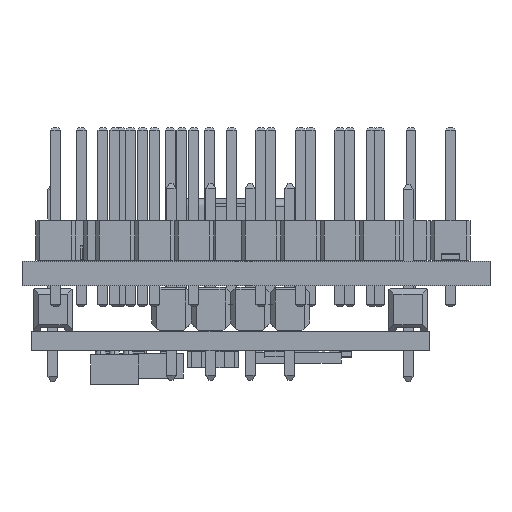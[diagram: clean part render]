
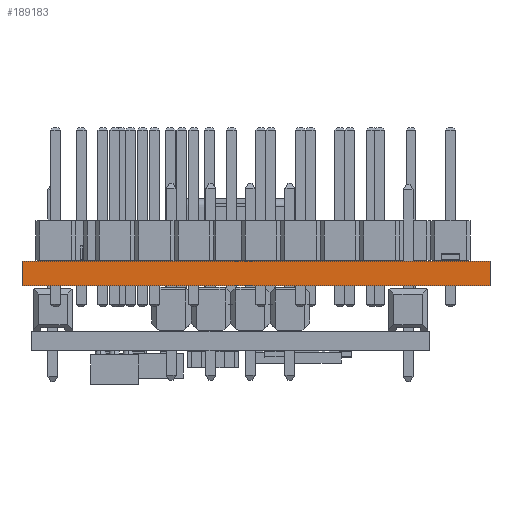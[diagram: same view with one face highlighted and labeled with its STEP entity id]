
A CAD part, front view. The second image highlights one B-rep face of the part: STEP entity #189183.
In plain terms, the highlighted planar face has unit normal (0, -1, 0).
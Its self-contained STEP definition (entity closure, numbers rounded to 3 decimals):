
#184989 = PLANE('',#184990);
#184990 = AXIS2_PLACEMENT_3D('',#184991,#184992,#184993);
#184991 = CARTESIAN_POINT('',(25.908,-72.263,0.));
#184992 = DIRECTION('',(-1.,0.,0.));
#184993 = DIRECTION('',(0.,1.,0.));
#185017 = PLANE('',#185018);
#185018 = AXIS2_PLACEMENT_3D('',#185019,#185020,#185021);
#185019 = CARTESIAN_POINT('',(40.958,-47.752,1.6));
#185020 = DIRECTION('',(-0.,-0.,-1.));
#185021 = DIRECTION('',(-1.,0.,0.));
#185045 = PLANE('',#185046);
#185046 = AXIS2_PLACEMENT_3D('',#185047,#185048,#185049);
#185047 = CARTESIAN_POINT('',(56.007,-23.241,0.));
#185048 = DIRECTION('',(1.,0.,-0.));
#185049 = DIRECTION('',(0.,-1.,0.));
#185071 = PLANE('',#185072);
#185072 = AXIS2_PLACEMENT_3D('',#185073,#185074,#185075);
#185073 = CARTESIAN_POINT('',(40.958,-47.752,0.));
#185074 = DIRECTION('',(-0.,-0.,-1.));
#185075 = DIRECTION('',(-1.,0.,0.));
#185086 = EDGE_CURVE('',#185087,#185089,#185091,.T.);
#185087 = VERTEX_POINT('',#185088);
#185088 = CARTESIAN_POINT('',(25.908,-72.263,0.));
#185089 = VERTEX_POINT('',#185090);
#185090 = CARTESIAN_POINT('',(25.908,-72.263,1.6));
#185091 = SURFACE_CURVE('',#185092,(#185096,#185103),.PCURVE_S1.);
#185092 = LINE('',#185093,#185094);
#185093 = CARTESIAN_POINT('',(25.908,-72.263,0.));
#185094 = VECTOR('',#185095,1.);
#185095 = DIRECTION('',(0.,0.,1.));
#185096 = PCURVE('',#184989,#185097);
#185097 = DEFINITIONAL_REPRESENTATION('',(#185098),#185102);
#185098 = LINE('',#185099,#185100);
#185099 = CARTESIAN_POINT('',(0.,0.));
#185100 = VECTOR('',#185101,1.);
#185101 = DIRECTION('',(0.,-1.));
#185102 = ( GEOMETRIC_REPRESENTATION_CONTEXT(2) 
PARAMETRIC_REPRESENTATION_CONTEXT() REPRESENTATION_CONTEXT('2D SPACE',''
  ) );
#185103 = PCURVE('',#185104,#185109);
#185104 = PLANE('',#185105);
#185105 = AXIS2_PLACEMENT_3D('',#185106,#185107,#185108);
#185106 = CARTESIAN_POINT('',(56.007,-72.263,0.));
#185107 = DIRECTION('',(0.,-1.,0.));
#185108 = DIRECTION('',(-1.,0.,0.));
#185109 = DEFINITIONAL_REPRESENTATION('',(#185110),#185114);
#185110 = LINE('',#185111,#185112);
#185111 = CARTESIAN_POINT('',(30.099,0.));
#185112 = VECTOR('',#185113,1.);
#185113 = DIRECTION('',(0.,-1.));
#185114 = ( GEOMETRIC_REPRESENTATION_CONTEXT(2) 
PARAMETRIC_REPRESENTATION_CONTEXT() REPRESENTATION_CONTEXT('2D SPACE',''
  ) );
#185164 = VERTEX_POINT('',#185165);
#185165 = CARTESIAN_POINT('',(56.007,-72.263,1.6));
#185186 = EDGE_CURVE('',#185187,#185164,#185189,.T.);
#185187 = VERTEX_POINT('',#185188);
#185188 = CARTESIAN_POINT('',(56.007,-72.263,0.));
#185189 = SURFACE_CURVE('',#185190,(#185194,#185201),.PCURVE_S1.);
#185190 = LINE('',#185191,#185192);
#185191 = CARTESIAN_POINT('',(56.007,-72.263,0.));
#185192 = VECTOR('',#185193,1.);
#185193 = DIRECTION('',(0.,0.,1.));
#185194 = PCURVE('',#185045,#185195);
#185195 = DEFINITIONAL_REPRESENTATION('',(#185196),#185200);
#185196 = LINE('',#185197,#185198);
#185197 = CARTESIAN_POINT('',(49.022,0.));
#185198 = VECTOR('',#185199,1.);
#185199 = DIRECTION('',(0.,-1.));
#185200 = ( GEOMETRIC_REPRESENTATION_CONTEXT(2) 
PARAMETRIC_REPRESENTATION_CONTEXT() REPRESENTATION_CONTEXT('2D SPACE',''
  ) );
#185201 = PCURVE('',#185104,#185202);
#185202 = DEFINITIONAL_REPRESENTATION('',(#185203),#185207);
#185203 = LINE('',#185204,#185205);
#185204 = CARTESIAN_POINT('',(0.,-0.));
#185205 = VECTOR('',#185206,1.);
#185206 = DIRECTION('',(0.,-1.));
#185207 = ( GEOMETRIC_REPRESENTATION_CONTEXT(2) 
PARAMETRIC_REPRESENTATION_CONTEXT() REPRESENTATION_CONTEXT('2D SPACE',''
  ) );
#185235 = EDGE_CURVE('',#185187,#185087,#185236,.T.);
#185236 = SURFACE_CURVE('',#185237,(#185241,#185248),.PCURVE_S1.);
#185237 = LINE('',#185238,#185239);
#185238 = CARTESIAN_POINT('',(56.007,-72.263,0.));
#185239 = VECTOR('',#185240,1.);
#185240 = DIRECTION('',(-1.,0.,0.));
#185241 = PCURVE('',#185071,#185242);
#185242 = DEFINITIONAL_REPRESENTATION('',(#185243),#185247);
#185243 = LINE('',#185244,#185245);
#185244 = CARTESIAN_POINT('',(-15.05,-24.511));
#185245 = VECTOR('',#185246,1.);
#185246 = DIRECTION('',(1.,0.));
#185247 = ( GEOMETRIC_REPRESENTATION_CONTEXT(2) 
PARAMETRIC_REPRESENTATION_CONTEXT() REPRESENTATION_CONTEXT('2D SPACE',''
  ) );
#185248 = PCURVE('',#185104,#185249);
#185249 = DEFINITIONAL_REPRESENTATION('',(#185250),#185254);
#185250 = LINE('',#185251,#185252);
#185251 = CARTESIAN_POINT('',(0.,-0.));
#185252 = VECTOR('',#185253,1.);
#185253 = DIRECTION('',(1.,0.));
#185254 = ( GEOMETRIC_REPRESENTATION_CONTEXT(2) 
PARAMETRIC_REPRESENTATION_CONTEXT() REPRESENTATION_CONTEXT('2D SPACE',''
  ) );
#187362 = EDGE_CURVE('',#185164,#185089,#187363,.T.);
#187363 = SURFACE_CURVE('',#187364,(#187368,#187375),.PCURVE_S1.);
#187364 = LINE('',#187365,#187366);
#187365 = CARTESIAN_POINT('',(56.007,-72.263,1.6));
#187366 = VECTOR('',#187367,1.);
#187367 = DIRECTION('',(-1.,0.,0.));
#187368 = PCURVE('',#185017,#187369);
#187369 = DEFINITIONAL_REPRESENTATION('',(#187370),#187374);
#187370 = LINE('',#187371,#187372);
#187371 = CARTESIAN_POINT('',(-15.05,-24.511));
#187372 = VECTOR('',#187373,1.);
#187373 = DIRECTION('',(1.,0.));
#187374 = ( GEOMETRIC_REPRESENTATION_CONTEXT(2) 
PARAMETRIC_REPRESENTATION_CONTEXT() REPRESENTATION_CONTEXT('2D SPACE',''
  ) );
#187375 = PCURVE('',#185104,#187376);
#187376 = DEFINITIONAL_REPRESENTATION('',(#187377),#187381);
#187377 = LINE('',#187378,#187379);
#187378 = CARTESIAN_POINT('',(0.,-1.6));
#187379 = VECTOR('',#187380,1.);
#187380 = DIRECTION('',(1.,0.));
#187381 = ( GEOMETRIC_REPRESENTATION_CONTEXT(2) 
PARAMETRIC_REPRESENTATION_CONTEXT() REPRESENTATION_CONTEXT('2D SPACE',''
  ) );
#189183 = ADVANCED_FACE('',(#189184),#185104,.T.);
#189184 = FACE_BOUND('',#189185,.T.);
#189185 = EDGE_LOOP('',(#189186,#189187,#189188,#189189));
#189186 = ORIENTED_EDGE('',*,*,#185186,.T.);
#189187 = ORIENTED_EDGE('',*,*,#187362,.T.);
#189188 = ORIENTED_EDGE('',*,*,#185086,.F.);
#189189 = ORIENTED_EDGE('',*,*,#185235,.F.);
